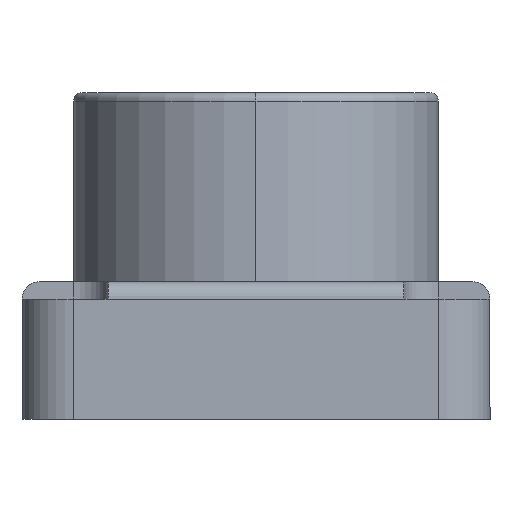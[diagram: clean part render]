
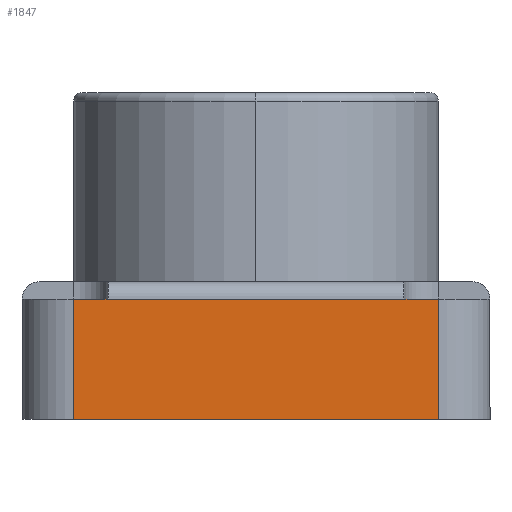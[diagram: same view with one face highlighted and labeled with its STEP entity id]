
A CAD part, left-side view. The second image highlights one B-rep face of the part: STEP entity #1847.
In plain terms, the highlighted planar face has unit normal (-1, 0, 0).
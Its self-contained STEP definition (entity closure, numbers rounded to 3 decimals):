
#96 = AXIS2_PLACEMENT_3D ( 'NONE', #1839, #148, #505 ) ;
#112 = EDGE_CURVE ( 'NONE', #1874, #777, #1199, .T. ) ;
#132 = VERTEX_POINT ( 'NONE', #1071 ) ;
#142 = CARTESIAN_POINT ( 'NONE',  ( -44.6, 10.6, 6. ) ) ;
#148 = DIRECTION ( 'NONE',  ( 1., 0., 0. ) ) ;
#173 = CARTESIAN_POINT ( 'NONE',  ( -44.6, 8.6, 7. ) ) ;
#214 = EDGE_LOOP ( 'NONE', ( #1016, #222, #595, #1801, #285, #943 ) ) ;
#222 = ORIENTED_EDGE ( 'NONE', *, *, #112, .T. ) ;
#285 = ORIENTED_EDGE ( 'NONE', *, *, #565, .T. ) ;
#340 = DIRECTION ( 'NONE',  ( 0., 0., 1. ) ) ;
#341 = CARTESIAN_POINT ( 'NONE',  ( -44.6, -10.6, 7. ) ) ;
#450 = CARTESIAN_POINT ( 'NONE',  ( -44.6, 10.6, 7. ) ) ;
#485 = PLANE ( 'NONE',  #96 ) ;
#505 = DIRECTION ( 'NONE',  ( 0., 0., -1. ) ) ;
#547 = VECTOR ( 'NONE', #815, 1000. ) ;
#559 = DIRECTION ( 'NONE',  ( 0., -1., 0. ) ) ;
#565 = EDGE_CURVE ( 'NONE', #132, #663, #1623, .T. ) ;
#595 = ORIENTED_EDGE ( 'NONE', *, *, #1655, .T. ) ;
#663 = VERTEX_POINT ( 'NONE', #2055 ) ;
#673 = DIRECTION ( 'NONE',  ( 0., -1., 0. ) ) ;
#705 = CARTESIAN_POINT ( 'NONE',  ( -44.6, -10.6, 6. ) ) ;
#732 = VERTEX_POINT ( 'NONE', #173 ) ;
#777 = VERTEX_POINT ( 'NONE', #1578 ) ;
#815 = DIRECTION ( 'NONE',  ( 0., 0., -1. ) ) ;
#911 = EDGE_CURVE ( 'NONE', #132, #732, #1733, .T. ) ;
#934 = LINE ( 'NONE', #450, #1179 ) ;
#943 = ORIENTED_EDGE ( 'NONE', *, *, #1027, .T. ) ;
#961 = EDGE_CURVE ( 'NONE', #984, #1874, #1392, .T. ) ;
#964 = DIRECTION ( 'NONE',  ( 0., 1., 0. ) ) ;
#984 = VERTEX_POINT ( 'NONE', #1211 ) ;
#999 = VECTOR ( 'NONE', #673, 1000. ) ;
#1000 = CARTESIAN_POINT ( 'NONE',  ( -44.6, -13.6, 0. ) ) ;
#1016 = ORIENTED_EDGE ( 'NONE', *, *, #961, .T. ) ;
#1027 = EDGE_CURVE ( 'NONE', #663, #984, #1515, .T. ) ;
#1037 = CARTESIAN_POINT ( 'NONE',  ( -44.6, 10.6, 7. ) ) ;
#1071 = CARTESIAN_POINT ( 'NONE',  ( -44.6, 10.6, 7. ) ) ;
#1179 = VECTOR ( 'NONE', #964, 1000. ) ;
#1199 = LINE ( 'NONE', #1037, #1530 ) ;
#1211 = CARTESIAN_POINT ( 'NONE',  ( -44.6, -10.6, 0. ) ) ;
#1392 = LINE ( 'NONE', #705, #1394 ) ;
#1394 = VECTOR ( 'NONE', #340, 1000. ) ;
#1446 = DIRECTION ( 'NONE',  ( 0., 1., 0. ) ) ;
#1464 = VECTOR ( 'NONE', #559, 1000. ) ;
#1515 = LINE ( 'NONE', #1000, #999 ) ;
#1530 = VECTOR ( 'NONE', #1446, 1000. ) ;
#1578 = CARTESIAN_POINT ( 'NONE',  ( -44.6, -8.6, 7. ) ) ;
#1623 = LINE ( 'NONE', #142, #547 ) ;
#1655 = EDGE_CURVE ( 'NONE', #777, #732, #934, .T. ) ;
#1680 = CARTESIAN_POINT ( 'NONE',  ( -44.6, 8.6, 7. ) ) ;
#1733 = LINE ( 'NONE', #1680, #1464 ) ;
#1801 = ORIENTED_EDGE ( 'NONE', *, *, #911, .F. ) ;
#1839 = CARTESIAN_POINT ( 'NONE',  ( -44.6, -13.6, 6. ) ) ;
#1847 = ADVANCED_FACE ( 'NONE', ( #2004 ), #485, .F. ) ;
#1874 = VERTEX_POINT ( 'NONE', #341 ) ;
#2004 = FACE_OUTER_BOUND ( 'NONE', #214, .T. ) ;
#2055 = CARTESIAN_POINT ( 'NONE',  ( -44.6, 10.6, 0. ) ) ;
